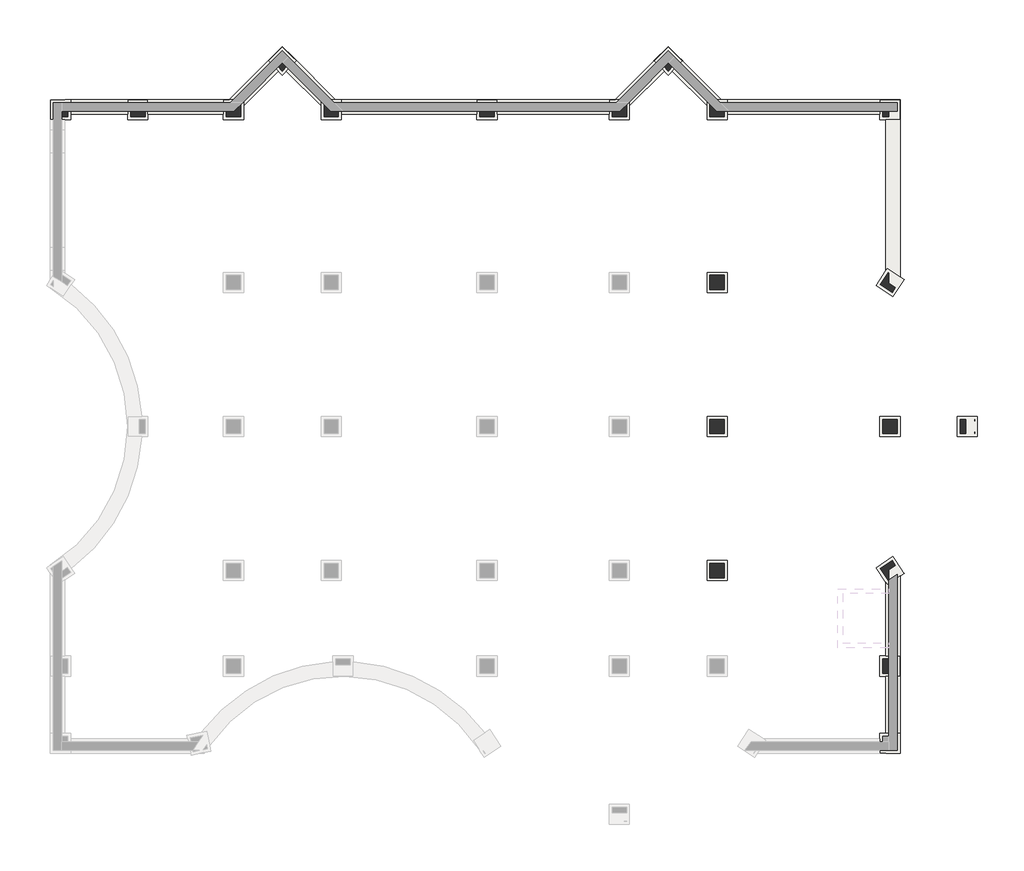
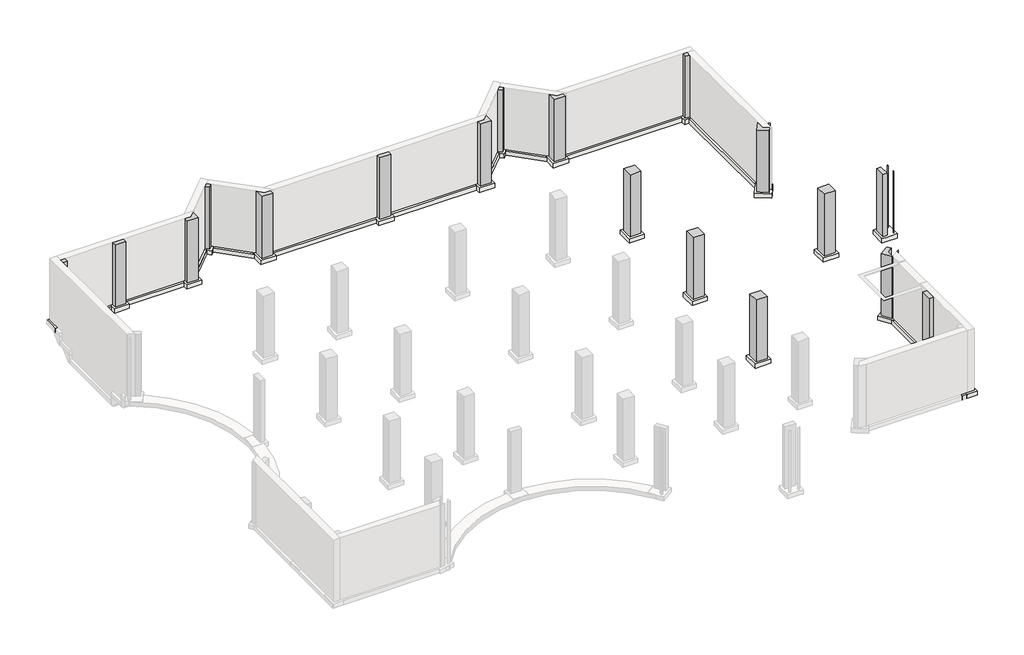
# One storey, part 3 of 3: 19 slabs, 18 columns, 9 footings.
"""IFC4 building model written with IfcOpenShell, lengths in millimetres."""

import ifcopenshell
import ifcopenshell.guid

model = None  # the IFC model being written
_history = None  # IfcOwnerHistory: only IFC2X3 demands one
_inside = {}  # id of a spatial element -> (the spatial element, [elements in it])
_under = {}  # id of a project, library or spatial element -> (it, [spatial elements below it])
_declared = {}  # id of a project -> (the project, [libraries it declares])
_typed = {}  # id of a type object -> (the type object, [elements of that type])
_made_of = {}  # id of a material, layer set ... -> (it, [elements and type objects made of it])


def new_model(schema):
    """Start an empty IFC model of exactly this schema.

    Asked for "IFC4X3", IfcOpenShell would pick the latest addendum, in which some entities
    have other attributes; the version numbers below select the first issue.
    IFC2X3 requires an IfcOwnerHistory on every rooted entity: one is made here for all.
    """
    global model, _history
    if schema == "IFC4X3":
        model = ifcopenshell.file(schema_version=(4, 3, 0, 0))
    else:
        model = ifcopenshell.file(schema=schema)
    _inside.clear()
    _under.clear()
    _declared.clear()
    _typed.clear()
    _made_of.clear()
    _history = None
    if model.schema == "IFC2X3":
        org = make("IfcOrganization", Name="unknown")
        user = make(
            "IfcPersonAndOrganization",
            ThePerson=make("IfcPerson", FamilyName="unknown"),
            TheOrganization=org,
        )
        app = make(
            "IfcApplication",
            ApplicationDeveloper=org,
            Version="unknown",
            ApplicationFullName="unknown",
            ApplicationIdentifier="unknown",
        )
        _history = make(
            "IfcOwnerHistory",
            OwningUser=user,
            OwningApplication=app,
            ChangeAction="ADDED",
            CreationDate=0,
        )
    return model


def make(cls, **values):
    """One entity of the class cls with the attributes given. An attribute that is None is left unset."""
    return model.create_entity(
        cls, **{name: value for name, value in values.items() if value is not None}
    )


def rooted(cls, **values):
    """An entity with a GlobalId (a new one), such as an element, a storey or a relation."""
    return make(cls, GlobalId=ifcopenshell.guid.new(), OwnerHistory=_history, **values)


def si_unit(unit_type, name, prefix=None):
    """IfcSIUnit, for example si_unit("LENGTHUNIT", "METRE", prefix="MILLI")."""
    return make("IfcSIUnit", UnitType=unit_type, Prefix=prefix, Name=name)


def assignment(units):
    """IfcUnitAssignment: the units of a project."""
    return None if units is None else make("IfcUnitAssignment", Units=units)


def point(xyz):
    """IfcCartesianPoint."""
    return None if xyz is None else make("IfcCartesianPoint", Coordinates=xyz)


def direction(xyz):
    """IfcDirection."""
    return None if xyz is None else make("IfcDirection", DirectionRatios=xyz)


def frame(location, z_axis=None, x_axis=None):
    """IfcAxis2Placement3D, a coordinate frame: its origin and axes. An axis left out is left unset."""
    return make(
        "IfcAxis2Placement3D",
        Location=point(location),
        Axis=direction(z_axis),
        RefDirection=direction(x_axis),
    )


def frame_2d(location, x_axis=None):
    """IfcAxis2Placement2D, a coordinate frame in the plane: its origin and x axis."""
    return make(
        "IfcAxis2Placement2D", Location=point(location), RefDirection=direction(x_axis)
    )


def origin():
    """The frame at (0, 0, 0) with its axes left unset."""
    return frame((0.0, 0.0, 0.0))


def place(relative_to, where):
    """IfcLocalPlacement: puts the frame where relative to a parent placement (None: the world)."""
    return make(
        "IfcLocalPlacement", PlacementRelTo=relative_to, RelativePlacement=where
    )


def context(
    kind, dimensions, precision=None, world=None, true_north=None, identifier=None
):
    """IfcGeometricRepresentationContext, for example the 3D "Model" context."""
    return make(
        "IfcGeometricRepresentationContext",
        ContextIdentifier=identifier,
        ContextType=kind,
        CoordinateSpaceDimension=dimensions,
        Precision=precision,
        WorldCoordinateSystem=world,
        TrueNorth=true_north,
    )


def project(units=None, contexts=None):
    """IfcProject with its units and contexts."""
    return rooted(
        "IfcProject",
        Name="project",
        RepresentationContexts=contexts,
        UnitsInContext=assignment(units),
    )


def spatial(cls, under=None, at=None, **own):
    """A site, building, storey or space (cls), placed at a placement, below another one or the project."""
    s = rooted(cls, ObjectPlacement=at, **own)
    if under is not None:
        _under.setdefault(under.id(), (under, []))[1].append(s)
    return s


def polyline(points):
    """IfcPolyline through the points."""
    return make("IfcPolyline", Points=[point(p) for p in points])


def circle_curve(where, radius):
    """IfcCircle in the frame where."""
    return make("IfcCircle", Position=where, Radius=radius)


def trimmed(basis, trim1, trim2, sense, master):
    """IfcTrimmedCurve: the piece of a basis curve between two trims."""
    return make(
        "IfcTrimmedCurve",
        BasisCurve=basis,
        Trim1=trim1,
        Trim2=trim2,
        SenseAgreement=sense,
        MasterRepresentation=master,
    )


def segment(curve, same_sense, transition):
    """IfcCompositeCurveSegment."""
    return make(
        "IfcCompositeCurveSegment",
        Transition=transition,
        SameSense=same_sense,
        ParentCurve=curve,
    )


def composite_curve(segments, self_intersect=None):
    """IfcCompositeCurve: segments joined end to end."""
    return make("IfcCompositeCurve", Segments=segments, SelfIntersect=self_intersect)


def outline(outer, holes=None, kind="AREA"):
    """IfcArbitraryClosedProfileDef: a profile drawn as a closed curve; with holes, ...WithVoids."""
    if holes is None:
        return make("IfcArbitraryClosedProfileDef", ProfileType=kind, OuterCurve=outer)
    return make(
        "IfcArbitraryProfileDefWithVoids",
        ProfileType=kind,
        OuterCurve=outer,
        InnerCurves=holes,
    )


def extrude(swept, where, along, depth):
    """IfcExtrudedAreaSolid: the profile swept, set in the frame where, extruded along a direction by depth."""
    return make(
        "IfcExtrudedAreaSolid",
        SweptArea=swept,
        Position=where,
        ExtrudedDirection=direction(along),
        Depth=depth,
    )


def faces_of(points, faces, orient=None, outer=None):
    """IfcFace entities. A face is a list of loops; a loop is a list of indices into points, from 0.

    orient and outer hold one flag for each loop. By default every Orientation is true, the
    first loop of a face is its IfcFaceOuterBound and the others are IfcFaceBound.
    """
    made = []
    for i, loops in enumerate(faces):
        bounds = []
        for j, loop in enumerate(loops):
            is_outer = j == 0 if outer is None else outer[i][j]
            bounds.append(
                make(
                    "IfcFaceOuterBound" if is_outer else "IfcFaceBound",
                    Bound=make("IfcPolyLoop", Polygon=[points[k] for k in loop]),
                    Orientation=True if orient is None else orient[i][j],
                )
            )
        made.append(make("IfcFace", Bounds=bounds))
    return made


def faceted_brep(points, faces, orient=None, outer=None, voids=None):
    """IfcFacetedBrep: a solid bounded by flat faces; with voids (closed shells), ...WithVoids."""
    shared = [point(p) for p in points]
    hull = make("IfcClosedShell", CfsFaces=faces_of(shared, faces, orient, outer))
    if voids is None:
        return make("IfcFacetedBrep", Outer=hull)
    return make(
        "IfcFacetedBrepWithVoids",
        Outer=hull,
        Voids=[
            make(cls, CfsFaces=faces_of(shared, fs, o, b)) for cls, fs, o, b in voids
        ],
    )


def shape(context_of_items, identifier, shape_type, items):
    """IfcShapeRepresentation: the items that make up one representation, for example the "Body"."""
    return make(
        "IfcShapeRepresentation",
        ContextOfItems=context_of_items,
        RepresentationIdentifier=identifier,
        RepresentationType=shape_type,
        Items=items,
    )


def source(mapping_origin, context_of_items, identifier, shape_type, items):
    """IfcRepresentationMap: a shape defined once, which mapped items show again and again."""
    return make(
        "IfcRepresentationMap",
        MappingOrigin=mapping_origin,
        MappedRepresentation=shape(context_of_items, identifier, shape_type, items),
    )


def transform(
    local_origin,
    x_axis=None,
    y_axis=None,
    z_axis=None,
    scale=None,
    scale2=None,
    scale3=None,
    uniform=True,
):
    """IfcCartesianTransformationOperator3D, or its non-uniform kind. x_axis, y_axis, z_axis: its Axis1, 2, 3."""
    if uniform:
        return make(
            "IfcCartesianTransformationOperator3D",
            Axis1=direction(x_axis),
            Axis2=direction(y_axis),
            LocalOrigin=point(local_origin),
            Scale=scale,
            Axis3=direction(z_axis),
        )
    return make(
        "IfcCartesianTransformationOperator3DnonUniform",
        Axis1=direction(x_axis),
        Axis2=direction(y_axis),
        LocalOrigin=point(local_origin),
        Scale=scale,
        Axis3=direction(z_axis),
        Scale2=scale2,
        Scale3=scale3,
    )


def mapped(mapping_source, mapping_target):
    """IfcMappedItem: shows the shape of a source again, moved by a transform."""
    return make(
        "IfcMappedItem", MappingSource=mapping_source, MappingTarget=mapping_target
    )


def made_of(thing, what):
    """Note that an element or type object is made of a material, layer set ...; save() writes the relation."""
    if what is not None:
        _made_of.setdefault(what.id(), (what, []))[1].append(thing)
    return thing


def element(
    cls,
    number,
    at=None,
    inside=None,
    cuts=None,
    type_object=None,
    material=None,
    context=None,
    identifier="Body",
    shape_type=None,
    held_by="IfcProductDefinitionShape",
    body=None,
    shapes=None,
    **own,
):
    """One element of the class cls, such as IfcWall. Its Tag is "e" and its number.

    at: its placement. inside: the storey or other place that contains it. cuts: it is an
    opening in that element (IfcRelVoidsElement). A single representation is given by context,
    identifier, shape_type and body (its items); several are given by shapes. held_by: the class
    of the entity that holds the representations. save() writes the other relations.
    """
    e = rooted(cls, Tag="e%d" % number, ObjectPlacement=at, **own)
    if body is not None:
        shapes = [shape(context, identifier, shape_type, body)]
    if shapes is not None:
        e.Representation = make(held_by, Representations=shapes)
    if inside is not None:
        _inside.setdefault(inside.id(), (inside, []))[1].append(e)
    if cuts is not None:
        rooted(
            "IfcRelVoidsElement", RelatingBuildingElement=cuts, RelatedOpeningElement=e
        )
    if type_object is not None:
        _typed.setdefault(type_object.id(), (type_object, []))[1].append(e)
    return made_of(e, material)


def aggregate(whole, parts):
    """IfcRelAggregates: a whole, such as a stair, and the parts it consists of."""
    return rooted("IfcRelAggregates", RelatingObject=whole, RelatedObjects=parts)


def save(model, path):
    """Write the relations noted so far, then the file.

    IfcRelAggregates (storeys below a building ...), IfcRelContainedInSpatialStructure (elements
    in a storey), IfcRelDefinesByType, IfcRelAssociatesMaterial and IfcRelDeclares: one each for
    every whole, place, type object, material and project.
    """
    for whole, parts in _under.values():
        aggregate(whole, parts)
    for where, things in _inside.values():
        rooted(
            "IfcRelContainedInSpatialStructure",
            RelatedElements=things,
            RelatingStructure=where,
        )
    for kind, things in _typed.values():
        rooted("IfcRelDefinesByType", RelatedObjects=things, RelatingType=kind)
    for what, things in _made_of.values():
        rooted("IfcRelAssociatesMaterial", RelatedObjects=things, RelatingMaterial=what)
    for by, libraries in _declared.values():
        rooted("IfcRelDeclares", RelatingContext=by, RelatedDefinitions=libraries)
    model.write(path)


def plane_surface(at):
    """IfcPlane: the flat surface through the origin of the frame at, square to its z axis."""
    return make("IfcPlane", Position=at)


def cylinder_surface(at, radius):
    """IfcCylindricalSurface: all points at the distance radius from the z axis of the frame at."""
    return make("IfcCylindricalSurface", Position=at, Radius=radius)


def revolved_surface(curve, axis_point, axis_direction):
    """IfcSurfaceOfRevolution: the curve turned about the line through axis_point along axis_direction."""
    return make(
        "IfcSurfaceOfRevolution",
        SweptCurve=make("IfcArbitraryOpenProfileDef", ProfileType="CURVE", Curve=curve),
        AxisPosition=make("IfcAxis1Placement", Location=point(axis_point), Axis=direction(axis_direction)),
    )


def advanced_brep(points, edges, surfaces, faces):
    """IfcAdvancedBrep: a solid bounded by faces that lie on surfaces and meet in shared edges.

    An edge is (start, end): straight between two places in points (the first is 0);
    or (start, end, curve); or (start, end, curve, False) where it runs against its curve.
    A face is (place in surfaces, loops), or (place, loops, False) where it looks against
    its surface's normal. A loop lists edges by number (the first is 1), with a minus sign
    where the edge is run from its end to its start. The first loop is the outer one.
    """
    corners = [point(p) for p in points]
    vertices = [make("IfcVertexPoint", VertexGeometry=c) for c in corners]
    made = []
    for start, end, *more in edges:
        made.append(
            make(
                "IfcEdgeCurve",
                EdgeStart=vertices[start],
                EdgeEnd=vertices[end],
                EdgeGeometry=more[0] if more else make("IfcPolyline", Points=[corners[start], corners[end]]),
                SameSense=more[1] if len(more) > 1 else True,
            )
        )
    hull = []
    for where, loops, *sense in faces:
        bounds = []
        for j, loop in enumerate(loops):
            ring = [make("IfcOrientedEdge", EdgeElement=made[abs(k) - 1], Orientation=k > 0) for k in loop]
            bounds.append(
                make(
                    "IfcFaceOuterBound" if j == 0 else "IfcFaceBound",
                    Bound=make("IfcEdgeLoop", EdgeList=ring),
                    Orientation=True,
                )
            )
        hull.append(make("IfcAdvancedFace", Bounds=bounds, FaceSurface=surfaces[where], SameSense=sense[0] if sense else True))
    return make("IfcAdvancedBrep", Outer=make("IfcClosedShell", CfsFaces=hull))


def m_concrete_rectangular_column_762_x_762mm_e00174ba(model_context):
    return source(origin(), model_context, "Body", "SweptSolid", [
        extrude(outline(polyline([(381.0, 381.0), (381.0, -381.0), (-381.0, -381.0), (-381.0, 381.0), (381.0, 381.0)])), frame((0.0, 0.0, -4572.0), z_axis=(0.0, 0.0, 1.0), x_axis=(1.0, 0.0, 0.0)), (0.0, 0.0, 1.0), 4572.0),
    ])


def m_footing_rectangular_1067_x_1067_x_305mm_e91fa160(model_context):
    return source(origin(), model_context, "Body", "SweptSolid", [
        extrude(outline(polyline([(533.5, 533.5), (533.5, -533.5), (-533.5, -533.5), (-533.5, 533.5), (533.5, 533.5)])), frame((0.0, 0.0, -305.0), z_axis=(0.0, 0.0, 1.0), x_axis=(1.0, 0.0, 0.0)), (0.0, 0.0, 1.0), 305.0),
    ])


model = new_model("IFC4")

# Units and contexts
model_context = context("Model", 3, world=origin())
ifc_project = project(units=[si_unit("LENGTHUNIT", "METRE", prefix="MILLI")], contexts=[model_context])

# Site, building, storey
site = spatial("IfcSite", under=ifc_project)
building = spatial("IfcBuilding", under=site)
storey = spatial("IfcBuildingStorey", under=building, Name="00 T.O.FOOTING", Elevation=-4572.0)

# Columns
placement = place(None, origin())
element("IfcColumn", 1, ObjectType="M_Concrete-Rectangular-Column : 762 x 762mm", at=placement, inside=storey, context=model_context, shape_type="SweptSolid", body=[
    extrude(outline(polyline([(536.575, 33302.575), (228.5, 33302.575), (228.5, 33610.65), (536.575, 33610.65), (536.575, 33302.575)])), frame((0.0, 0.0, -4572.0), z_axis=(0.0, 0.0, 1.0), x_axis=(1.0, 0.0, 0.0)), (0.0, 0.0, 1.0), 4572.0),
])
element("IfcColumn", 2, ObjectType="M_Concrete-Rectangular-Column : 762 x 762mm", at=placement, inside=storey, context=model_context, shape_type="SweptSolid", body=[
    extrude(outline(polyline([(4625.575, 33302.575), (3863.575, 33302.575), (3863.575, 33610.65), (4625.575, 33610.65), (4625.575, 33302.575)])), frame((0.0, 0.0, -4572.0), z_axis=(0.0, 0.0, 1.0), x_axis=(1.0, 0.0, 0.0)), (0.0, 0.0, 1.0), 4572.0),
])
element("IfcColumn", 3, ObjectType="M_Concrete-Rectangular-Column : 762 x 762mm", at=placement, inside=storey, context=model_context, shape_type="SweptSolid", body=[
    extrude(outline(polyline([(9680.575, 33302.575), (8918.575, 33302.575), (8918.575, 33610.65), (9329.781524, 33610.65), (9680.575, 33961.443476), (9680.575, 33302.575)])), frame((0.0, 0.0, -4572.0), z_axis=(0.0, 0.0, 1.0), x_axis=(1.0, 0.0, 0.0)), (0.0, 0.0, 1.0), 4572.0),
])
element("IfcColumn", 4, ObjectType="M_Concrete-Rectangular-Column : 762 x 762mm", at=placement, inside=storey, context=model_context, shape_type="SweptSolid", body=[
    extrude(outline(polyline([(11885.575, 35730.7596327), (11667.7330784, 35948.6015543), (11885.8887629, 36166.7572388), (12103.7306845, 35948.9153172), (11885.575, 35730.7596327)])), frame((0.0, 0.0, -4572.0), z_axis=(0.0, 0.0, 1.0), x_axis=(1.0, 0.0, 0.0)), (0.0, 0.0, 1.0), 4572.0),
])
element("IfcColumn", 5, ObjectType="M_Concrete-Rectangular-Column : 762 x 762mm", at=placement, inside=storey, context=model_context, shape_type="SweptSolid", body=[
    extrude(outline(polyline([(14852.575, 33302.575), (14090.575, 33302.575), (14090.575, 33962.0710017), (14441.9960017, 33610.65), (14852.575, 33610.65), (14852.575, 33302.575)])), frame((0.0, 0.0, -4572.0), z_axis=(0.0, 0.0, 1.0), x_axis=(1.0, 0.0, 0.0)), (0.0, 0.0, 1.0), 4572.0),
])
element("IfcColumn", 6, ObjectType="M_Concrete-Rectangular-Column : 762 x 762mm", at=placement, inside=storey, context=model_context, shape_type="SweptSolid", body=[
    extrude(outline(polyline([(23091.575, 33302.575), (22329.575, 33302.575), (22329.575, 33610.65), (23091.575, 33610.65), (23091.575, 33302.575)])), frame((0.0, 0.0, -4572.0), z_axis=(0.0, 0.0, 1.0), x_axis=(1.0, 0.0, 0.0)), (0.0, 0.0, 1.0), 4572.0),
])
element("IfcColumn", 7, ObjectType="M_Concrete-Rectangular-Column : 762 x 762mm", at=placement, inside=storey, context=model_context, shape_type="SweptSolid", body=[
    extrude(outline(polyline([(30092.575, 33302.575), (29330.575, 33302.575), (29330.575, 33610.65), (29742.4090498, 33610.65), (30092.575, 33960.8159502), (30092.575, 33302.575)])), frame((0.0, 0.0, -4572.0), z_axis=(0.0, 0.0, 1.0), x_axis=(1.0, 0.0, 0.0)), (0.0, 0.0, 1.0), 4572.0),
])
element("IfcColumn", 8, ObjectType="M_Concrete-Rectangular-Column : 762 x 762mm", at=placement, inside=storey, context=model_context, shape_type="SweptSolid", body=[
    extrude(outline(polyline([(32297.575, 35730.7596327), (32080.0468413, 35948.2877915), (32298.5162886, 36166.7572388), (32516.0444474, 35949.2290801), (32297.575, 35730.7596327)])), frame((0.0, 0.0, -4572.0), z_axis=(0.0, 0.0, 1.0), x_axis=(1.0, 0.0, 0.0)), (0.0, 0.0, 1.0), 4572.0),
])
element("IfcColumn", 9, ObjectType="M_Concrete-Rectangular-Column : 762 x 762mm", at=placement, inside=storey, context=model_context, shape_type="SweptSolid", body=[
    extrude(outline(polyline([(35264.575, 33302.575), (34502.575, 33302.575), (34502.575, 33962.6985274), (34854.6235274, 33610.65), (35264.575, 33610.65), (35264.575, 33302.575)])), frame((0.0, 0.0, -4572.0), z_axis=(0.0, 0.0, 1.0), x_axis=(1.0, 0.0, 0.0)), (0.0, 0.0, 1.0), 4572.0),
])
element("IfcColumn", 10, ObjectType="M_Concrete-Rectangular-Column : 762 x 762mm", at=placement, inside=storey, context=model_context, shape_type="SweptSolid", body=[
    extrude(outline(polyline([(43646.575, 33302.575), (43646.575, 33610.65), (43955.9050515, 33610.65), (43955.9050515, 33302.575), (43646.575, 33302.575)])), frame((0.0, 0.0, -4572.0), z_axis=(0.0, 0.0, 1.0), x_axis=(1.0, 0.0, 0.0)), (0.0, 0.0, 1.0), 4572.0),
])
element("IfcColumn", 11, ObjectType="M_Concrete-Rectangular-Column : 762 x 762mm", at=placement, inside=storey, context=model_context, shape_type="SweptSolid", body=[
    extrude(outline(composite_curve([segment(polyline([(44461.4614075, 24709.0040954), (44555.6684434, 24646.5297336), (44553.539597, 24643.3195798)]), True, "CONTINUOUS"), segment(trimmed(circle_curve(frame_2d((38974.293871, 16919.575)), 9528.075), [point((44553.539597, 24643.3195798))], [point((44461.4614075, 24709.0040954))], True, "CARTESIAN"), True, "CONTINUOUS")], self_intersect=False)), frame((0.0, 0.0, -4572.0), z_axis=(0.0, 0.0, 1.0), x_axis=(1.0, 0.0, 0.0)), (0.0, 0.0, 1.0), 4572.0),
    extrude(outline(composite_curve([segment(polyline([(44134.5297336, 24011.4815566), (43499.4815566, 24432.6202664), (43920.6202664, 25067.6684434), (43955.9050515, 25044.2689764), (43955.9050515, 24500.3369473)]), True, "CONTINUOUS"), segment(trimmed(circle_curve(frame_2d((38974.293871, 16919.575)), 9071.075), [point((43955.9050515, 24500.3369473))], [point((44300.7545376, 24262.1371157))], False, "CARTESIAN"), True, "CONTINUOUS"), segment(polyline([(44300.7545376, 24262.1371157), (44134.5297336, 24011.4815566)]), True, "CONTINUOUS")], self_intersect=False)), frame((0.0, 0.0, -4572.0), z_axis=(0.0, 0.0, 1.0), x_axis=(1.0, 0.0, 0.0)), (0.0, 0.0, 1.0), 4572.0),
])
element("IfcColumn", 12, ObjectType="M_Concrete-Rectangular-Column : 762 x 762mm", at=placement, inside=storey, context=model_context, shape_type="SweptSolid", body=[
    extrude(outline(composite_curve([segment(polyline([(48497.575, 16617.3668878), (48497.575, 16538.575), (48494.7482827, 16538.575)]), True, "CONTINUOUS"), segment(trimmed(circle_curve(frame_2d((38974.293871, 16919.575)), 9528.075), [point((48494.7482827, 16538.575))], [point((48497.575, 16617.3668878))], True, "CARTESIAN"), True, "CONTINUOUS")], self_intersect=False)), frame((0.0, 0.0, -4572.0), z_axis=(0.0, 0.0, 1.0), x_axis=(1.0, 0.0, 0.0)), (0.0, 0.0, 1.0), 4572.0),
    extrude(outline(composite_curve([segment(polyline([(47735.575, 16538.575), (47735.575, 17300.575), (48037.3640271, 17300.575)]), True, "CONTINUOUS"), segment(trimmed(circle_curve(frame_2d((38974.293871, 16919.575)), 9071.075), [point((48037.3640271, 17300.575))], [point((48037.3640271, 16538.575))], False, "CARTESIAN"), True, "CONTINUOUS"), segment(polyline([(48037.3640271, 16538.575), (47735.575, 16538.575)]), True, "CONTINUOUS")], self_intersect=False)), frame((0.0, 0.0, -4572.0), z_axis=(0.0, 0.0, 1.0), x_axis=(1.0, 0.0, 0.0)), (0.0, 0.0, 1.0), 4572.0),
    extrude(outline(composite_curve([segment(polyline([(48494.7482827, 17300.575), (48497.575, 17300.575), (48497.575, 17221.7831122)]), True, "CONTINUOUS"), segment(trimmed(circle_curve(frame_2d((38974.293871, 16919.575)), 9528.075), [point((48497.575, 17221.7831122))], [point((48494.7482827, 17300.575))], True, "CARTESIAN"), True, "CONTINUOUS")], self_intersect=False)), frame((0.0, 0.0, -4572.0), z_axis=(0.0, 0.0, 1.0), x_axis=(1.0, 0.0, 0.0)), (0.0, 0.0, 1.0), 4572.0),
])
element("IfcColumn", 13, ObjectType="M_Concrete-Rectangular-Column : 762 x 762mm", at=placement, inside=storey, context=model_context, shape_type="AdvancedBrep", body=[
    advanced_brep(
    [(44553.539597, 9195.8304202, -4572.0), (44555.6684434, 9192.6202664, -4572.0), (44461.4614075, 9130.1459046, -4572.0), (44555.6684434, 9192.6202664, 0.0), (44553.539597, 9195.8304202, 0.0), (44461.4614075, 9130.1459046, 0.0)],
    [
        (0, 1),
        (1, 2),
        (2, 0, circle_curve(frame((38974.293871, 16919.575, -4572.0), z_axis=(0.0, 0.0, 1.0), x_axis=(1.0, 0.0, 0.0)), 9528.075)),
        (3, 1),
        (0, 4),
        (4, 3),
        (3, 5),
        (5, 2),
        (4, 5, circle_curve(frame((38974.293871, 16919.575, 0.0), z_axis=(0.0, 0.0, -1.0), x_axis=(1.0, 0.0, 0.0)), 9528.075)),
    ],
    [
        plane_surface(frame((43920.6202664, 8771.4815566, -4572.0), z_axis=(0.0, 0.0, -1.0000000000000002), x_axis=(-0.552675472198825, 0.8333965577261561, 0.0))),
        plane_surface(frame((44555.6684434, 9192.6202664, 0.0), z_axis=(0.8333965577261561, 0.552675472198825, 0.0), x_axis=(0.0, 0.0, -1.0))),
        plane_surface(frame((43920.6202664, 8771.4815566, 0.0), z_axis=(0.552675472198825, -0.8333965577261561, 0.0), x_axis=(0.0, 0.0, -1.0))),
        plane_surface(frame((43920.6202664, 8771.4815566, 0.0), z_axis=(0.0, 0.0, 1.0000000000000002), x_axis=(0.552675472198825, -0.8333965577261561, 0.0))),
        revolved_surface(polyline([(48502.368871, 16919.575, 0.0), (48502.368871, 16919.575, -4572.0)]), (38974.293871, 16919.575, -4572.0), (0.0, 0.0, 1.0)),
    ],
    [
        (0, [[1, 2, 3]]),
        (1, [[4, -1, 5, 6]]),
        (2, [[-4, 7, 8, -2]]),
        (3, [[-7, -6, 9]]),
        (4, [[-3, -8, -9, -5]]),
    ],
),
    advanced_brep(
    [(44134.5297336, 9827.6684434, -4572.0), (43499.4815566, 9406.5297336, -4572.0), (43499.4815566, 9406.5297336, 0.0), (44134.5297336, 9827.6684434, 0.0), (43920.6202664, 8771.4815566, 0.0), (43920.6202664, 8771.4815566, -4572.0), (43955.9050515, 8794.8810236, -4572.0), (43955.9050515, 8794.8810236, 0.0), (43955.9050515, 8797.5208724, 0.0), (43955.9050515, 9338.8130527, 0.0), (44300.7545376, 9577.0128843, 0.0), (43955.9050515, 9338.8130527, -4572.0), (44300.7545376, 9577.0128843, -4572.0), (43955.9050515, 8797.5208724, -4572.0)],
    [
        (0, 1),
        (1, 2),
        (2, 3),
        (3, 0),
        (4, 5),
        (5, 6),
        (6, 7),
        (7, 4),
        (1, 5),
        (4, 2),
        (7, 8),
        (8, 9),
        (9, 10, circle_curve(frame((38974.293871, 16919.575, 0.0), z_axis=(0.0, 0.0, 1.0), x_axis=(1.0, 0.0, 0.0)), 9071.075)),
        (10, 3),
        (9, 11),
        (11, 12, circle_curve(frame((38974.293871, 16919.575, -4572.0), z_axis=(0.0, 0.0, 1.0), x_axis=(1.0, 0.0, 0.0)), 9071.075)),
        (12, 10),
        (6, 13),
        (13, 11),
        (0, 12),
    ],
    [
        plane_surface(frame((44134.5297336, 9827.6684434, 0.0), z_axis=(-0.552675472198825, 0.8333965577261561, 0.0), x_axis=(0.0, 0.0, -1.0))),
        plane_surface(frame((43920.6202664, 8771.4815566, 0.0), z_axis=(0.552675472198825, -0.8333965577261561, 0.0), x_axis=(0.0, 0.0, -1.0))),
        plane_surface(frame((43499.4815566, 9406.5297336, 0.0), z_axis=(-0.8333965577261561, -0.552675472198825, 0.0), x_axis=(0.0, 0.0, -1.0))),
        plane_surface(frame((43920.6202664, 8771.4815566, 0.0), z_axis=(0.0, 0.0, 1.0000000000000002), x_axis=(0.552675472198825, -0.8333965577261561, 0.0))),
        cylinder_surface(frame((38974.293871, 16919.575, -4572.0), z_axis=(0.0, 0.0, -1.0), x_axis=(1.0, 0.0, 0.0)), 9071.075),
        plane_surface(frame((43955.9050515, 9216.5342584, -4572.0), z_axis=(1.0, 0.0, 0.0), x_axis=(0.0, -1.0, 0.0))),
        plane_surface(frame((43920.6202664, 8771.4815566, -4572.0), z_axis=(0.0, 0.0, -1.0000000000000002), x_axis=(-0.552675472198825, 0.8333965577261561, 0.0))),
        plane_surface(frame((44555.6684434, 9192.6202664, 0.0), z_axis=(0.8333965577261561, 0.552675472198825, 0.0), x_axis=(0.0, 0.0, -1.0))),
    ],
    [
        (0, [[1, 2, 3, 4]]),
        (1, [[5, 6, 7, 8]]),
        (2, [[9, -5, 10, -2]]),
        (3, [[-3, -10, -8, 11, 12, 13, 14]]),
        (4, [[15, 16, 17, -13]]),
        (5, [[-15, -12, -11, -7, 18, 19]]),
        (6, [[-1, 20, -16, -19, -18, -6, -9]]),
        (7, [[-4, -14, -17, -20]]),
    ],
),
])
element("IfcColumn", 14, ObjectType="M_Concrete-Rectangular-Column : 762 x 762mm", at=placement, inside=storey, context=model_context, shape_type="SweptSolid", body=[
    extrude(outline(polyline([(43646.575, 3863.575), (43646.575, 4625.575), (43955.9050515, 4625.575), (43955.9050515, 3863.575), (43646.575, 3863.575)])), frame((0.0, 0.0, -4572.0), z_axis=(0.0, 0.0, 1.0), x_axis=(1.0, 0.0, 0.0)), (0.0, 0.0, 1.0), 4572.0),
])
m_concrete_rectangular_column_762_x_762mm_shape = m_concrete_rectangular_column_762_x_762mm_e00174ba(model_context)
element("IfcColumn", 15, ObjectType="M_Concrete-Rectangular-Column : 762 x 762mm", at=placement, inside=storey, context=model_context, shape_type="MappedRepresentation", body=[
    mapped(m_concrete_rectangular_column_762_x_762mm_shape, transform((34883.575, 24539.575, 0.0), x_axis=(1.0, 0.0, 0.0), y_axis=(0.0, 1.0, 0.0), z_axis=(0.0, 0.0, 1.0))),
])
element("IfcColumn", 16, ObjectType="M_Concrete-Rectangular-Column : 762 x 762mm", at=placement, inside=storey, context=model_context, shape_type="MappedRepresentation", body=[
    mapped(m_concrete_rectangular_column_762_x_762mm_shape, transform((34883.575, 16919.575, 0.0), x_axis=(1.0, 0.0, 0.0), y_axis=(0.0, 1.0, 0.0), z_axis=(0.0, 0.0, 1.0))),
])
element("IfcColumn", 17, ObjectType="M_Concrete-Rectangular-Column : 762 x 762mm", at=placement, inside=storey, context=model_context, shape_type="MappedRepresentation", body=[
    mapped(m_concrete_rectangular_column_762_x_762mm_shape, transform((34883.575, 9299.575, 0.0), x_axis=(1.0, 0.0, 0.0), y_axis=(0.0, 1.0, 0.0), z_axis=(0.0, 0.0, 1.0))),
])
element("IfcColumn", 18, ObjectType="M_Concrete-Rectangular-Column : 762 x 762mm", at=placement, inside=storey, context=model_context, shape_type="MappedRepresentation", body=[
    mapped(m_concrete_rectangular_column_762_x_762mm_shape, transform((44027.575, 16919.575, 0.0), x_axis=(1.0, 0.0, 0.0), y_axis=(0.0, 1.0, 0.0), z_axis=(0.0, 0.0, 1.0))),
])

# Footings
element("IfcFooting", 19, ObjectType="Bearing Footing - 762 x 305", at=placement, inside=storey, context=model_context, shape_type="SweptSolid", body=[
    extrude(outline(polyline([(381.0, 34220.15), (9077.3183578, 34220.15), (9078.5920645, 34217.075), (8766.075, 34217.075), (8766.075, 33458.15), (4778.075, 33458.15), (4778.075, 34217.075), (3711.075, 34217.075), (3711.075, 33458.15), (689.075, 33458.15), (689.075, 34217.075), (381.0, 34217.075), (381.0, 34220.15)])), frame((0.0, 0.0, -4877.0), z_axis=(0.0, 0.0, 1.0), x_axis=(1.0, 0.0, 0.0)), (0.0, 0.0, 1.0), 305.0),
])
element("IfcFooting", 20, ObjectType="Bearing Footing - 762 x 305", at=placement, inside=storey, context=model_context, shape_type="SweptSolid", body=[
    extrude(outline(polyline([(11885.8887629, 37028.7204051), (12424.7041301, 36489.9050378), (12422.2160139, 36487.4169216), (11885.575, 37024.0579355), (11131.0920645, 36269.575), (11667.7330784, 35732.9339861), (9833.075, 33898.2759077), (9833.075, 34217.075), (9078.5920645, 34217.075), (9077.3183578, 34220.15), (11885.8887629, 37028.7204051)])), frame((0.0, 0.0, -4877.0), z_axis=(0.0, 0.0, 1.0), x_axis=(1.0, 0.0, 0.0)), (0.0, 0.0, 1.0), 305.0),
])
element("IfcFooting", 21, ObjectType="Bearing Footing - 762 x 305", at=placement, inside=storey, context=model_context, shape_type="SweptSolid", body=[
    extrude(outline(polyline([(12424.7041301, 36489.9050378), (14694.459168, 34220.15), (14693.1854613, 34217.075), (13938.075, 34217.075), (13938.075, 33898.9034334), (12103.7306845, 35733.247749), (12640.0579355, 36269.575), (12422.2160139, 36487.4169216), (12424.7041301, 36489.9050378)])), frame((0.0, 0.0, -4877.0), z_axis=(0.0, 0.0, 1.0), x_axis=(1.0, 0.0, 0.0)), (0.0, 0.0, 1.0), 305.0),
])
element("IfcFooting", 22, ObjectType="Bearing Footing - 762 x 305", at=placement, inside=storey, context=model_context, shape_type="SweptSolid", body=[
    extrude(outline(polyline([(14694.459168, 34220.15), (29489.9458835, 34220.15), (29491.2195902, 34217.075), (29178.075, 34217.075), (29178.075, 33458.15), (23244.075, 33458.15), (23244.075, 34217.075), (22177.075, 34217.075), (22177.075, 33458.15), (15005.075, 33458.15), (15005.075, 34217.075), (14693.1854613, 34217.075), (14694.459168, 34220.15)])), frame((0.0, 0.0, -4877.0), z_axis=(0.0, 0.0, 1.0), x_axis=(1.0, 0.0, 0.0)), (0.0, 0.0, 1.0), 305.0),
])
element("IfcFooting", 23, ObjectType="Bearing Footing - 762 x 305", at=placement, inside=storey, context=model_context, shape_type="SweptSolid", body=[
    extrude(outline(polyline([(32298.5162886, 37028.7204051), (32837.3316559, 36489.9050378), (32834.5297768, 36487.1031587), (32297.575, 37024.0579355), (31543.0920645, 36269.575), (32080.0468413, 35732.6202232), (30245.075, 33897.648382), (30245.075, 34217.075), (29491.2195902, 34217.075), (29489.9458835, 34220.15), (32298.5162886, 37028.7204051)])), frame((0.0, 0.0, -4877.0), z_axis=(0.0, 0.0, 1.0), x_axis=(1.0, 0.0, 0.0)), (0.0, 0.0, 1.0), 305.0),
])
element("IfcFooting", 24, ObjectType="Bearing Footing - 762 x 305", at=placement, inside=storey, context=model_context, shape_type="SweptSolid", body=[
    extrude(outline(polyline([(32837.3316559, 36489.9050378), (35107.0866937, 34220.15), (35105.812987, 34217.075), (34350.075, 34217.075), (34350.075, 33899.5309592), (32516.0444474, 35733.5615118), (33052.0579355, 36269.575), (32834.5297768, 36487.1031587), (32837.3316559, 36489.9050378)])), frame((0.0, 0.0, -4877.0), z_axis=(0.0, 0.0, 1.0), x_axis=(1.0, 0.0, 0.0)), (0.0, 0.0, 1.0), 305.0),
])
element("IfcFooting", 25, ObjectType="Bearing Footing - 762 x 305", at=placement, inside=storey, context=model_context, shape_type="SweptSolid", body=[
    extrude(outline(polyline([(44565.4050515, 34220.15), (44565.4050515, 33458.15), (44561.075, 33458.15), (44561.075, 34217.075), (43494.075, 34217.075), (43494.075, 33458.15), (35417.075, 33458.15), (35417.075, 34217.075), (35105.812987, 34217.075), (35107.0866937, 34220.15), (44565.4050515, 34220.15)])), frame((0.0, 0.0, -4877.0), z_axis=(0.0, 0.0, 1.0), x_axis=(1.0, 0.0, 0.0)), (0.0, 0.0, 1.0), 305.0),
])
element("IfcFooting", 26, ObjectType="Bearing Footing - 762 x 305", at=placement, inside=storey, context=model_context, shape_type="SweptSolid", body=[
    extrude(outline(polyline([(44561.075, 33458.15), (44565.4050515, 33458.15), (44565.4050515, 24823.0589191), (43877.8103009, 25279.044428), (43803.4050515, 25166.846435), (43803.4050515, 33150.075), (44561.075, 33150.075), (44561.075, 33458.15)])), frame((0.0, 0.0, -4877.0), z_axis=(0.0, 0.0, 1.0), x_axis=(1.0, 0.0, 0.0)), (0.0, 0.0, 1.0), 305.0),
])
element("IfcFooting", 27, ObjectType="Bearing Footing - 762 x 305", at=placement, inside=storey, context=model_context, shape_type="SweptSolid", body=[
    extrude(outline(polyline([(44565.4050515, -381.0), (43803.4050515, -381.0), (43803.4050515, -377.925), (44561.075, -377.925), (44561.075, 689.075), (43803.4050515, 689.075), (43803.4050515, 3711.075), (44561.075, 3711.075), (44561.075, 4778.075), (43803.4050515, 4778.075), (43803.4050515, 8672.303565), (43877.8103009, 8560.105572), (44565.4050515, 9016.0910809), (44565.4050515, -381.0)])), frame((0.0, 0.0, -4877.0), z_axis=(0.0, 0.0, 1.0), x_axis=(1.0, 0.0, 0.0)), (0.0, 0.0, 1.0), 305.0),
])

# Slabs
element("IfcSlab", 28, ObjectType="M_Footing-Rectangular : 1067 x 1067 x 305mm", at=placement, inside=storey, context=model_context, shape_type="Brep", body=[
    faceted_brep([(-377.925, 34217.075, -4572.0), (-377.925, 33150.075, -4572.0), (381.0, 33150.075, -4572.0), (689.075, 33150.075, -4572.0), (689.075, 33458.15, -4572.0), (689.075, 34217.075, -4572.0), (381.0, 34217.075, -4572.0), (-377.925, 34217.075, -4877.0), (381.0, 34217.075, -4877.0), (689.075, 34217.075, -4877.0), (689.075, 33458.15, -4877.0), (689.075, 33150.075, -4877.0), (381.0, 33150.075, -4877.0), (-377.925, 33150.075, -4877.0)], [[[0, 1, 2, 3, 4, 5, 6]], [[7, 8, 9, 10, 11, 12, 13]], [[1, 0, 7, 13]], [[3, 2, 1, 13, 12, 11]], [[5, 4, 3, 11, 10, 9]], [[0, 6, 5, 9, 8, 7]]]),
])
element("IfcSlab", 29, ObjectType="M_Footing-Rectangular : 1067 x 1067 x 305mm", at=placement, inside=storey, context=model_context, shape_type="Brep", body=[
    faceted_brep([(3711.075, 34217.075, -4572.0), (3711.075, 33458.15, -4572.0), (3711.075, 33150.075, -4572.0), (4778.075, 33150.075, -4572.0), (4778.075, 33458.15, -4572.0), (4778.075, 34217.075, -4572.0), (3711.075, 34217.075, -4877.0), (4778.075, 34217.075, -4877.0), (4778.075, 33458.15, -4877.0), (4778.075, 33150.075, -4877.0), (3711.075, 33150.075, -4877.0), (3711.075, 33458.15, -4877.0)], [[[0, 1, 2, 3, 4, 5]], [[6, 7, 8, 9, 10, 11]], [[2, 1, 0, 6, 11, 10]], [[3, 2, 10, 9]], [[5, 4, 3, 9, 8, 7]], [[0, 5, 7, 6]]]),
])
element("IfcSlab", 30, ObjectType="M_Footing-Rectangular : 1067 x 1067 x 305mm", at=placement, inside=storey, context=model_context, shape_type="Brep", body=[
    faceted_brep([(8766.075, 34217.075, -4572.0), (8766.075, 33458.15, -4572.0), (8766.075, 33150.075, -4572.0), (9833.075, 33150.075, -4572.0), (9833.075, 33898.2759077, -4572.0), (9833.075, 34217.075, -4572.0), (9078.5920645, 34217.075, -4572.0), (8766.075, 34217.075, -4877.0), (9078.5920645, 34217.075, -4877.0), (9833.075, 34217.075, -4877.0), (9833.075, 33898.2759077, -4877.0), (9833.075, 33150.075, -4877.0), (8766.075, 33150.075, -4877.0), (8766.075, 33458.15, -4877.0)], [[[0, 1, 2, 3, 4, 5, 6]], [[7, 8, 9, 10, 11, 12, 13]], [[2, 1, 0, 7, 13, 12]], [[3, 2, 12, 11]], [[5, 4, 3, 11, 10, 9]], [[0, 6, 5, 9, 8, 7]]]),
])
element("IfcSlab", 31, ObjectType="M_Footing-Rectangular : 1067 x 1067 x 305mm", at=placement, inside=storey, context=model_context, shape_type="Brep", body=[
    faceted_brep([(11885.575, 37024.0579355, -4572.0), (11131.0920645, 36269.575, -4572.0), (11667.7330784, 35732.9339861, -4572.0), (11885.575, 35515.0920645, -4572.0), (12103.7306845, 35733.247749, -4572.0), (12640.0579355, 36269.575, -4572.0), (12422.2160139, 36487.4169216, -4572.0), (11885.575, 37024.0579355, -4877.0), (12422.2160139, 36487.4169216, -4877.0), (12640.0579355, 36269.575, -4877.0), (12103.7306845, 35733.247749, -4877.0), (11885.575, 35515.0920645, -4877.0), (11667.7330784, 35732.9339861, -4877.0), (11131.0920645, 36269.575, -4877.0)], [[[0, 1, 2, 3, 4, 5, 6]], [[7, 8, 9, 10, 11, 12, 13]], [[1, 0, 7, 13]], [[3, 2, 1, 13, 12, 11]], [[5, 4, 3, 11, 10, 9]], [[0, 6, 5, 9, 8, 7]]]),
])
element("IfcSlab", 32, ObjectType="M_Footing-Rectangular : 1067 x 1067 x 305mm", at=placement, inside=storey, context=model_context, shape_type="Brep", body=[
    faceted_brep([(13938.075, 34217.075, -4572.0), (13938.075, 33898.9034334, -4572.0), (13938.075, 33150.075, -4572.0), (15005.075, 33150.075, -4572.0), (15005.075, 33458.15, -4572.0), (15005.075, 34217.075, -4572.0), (14693.1854613, 34217.075, -4572.0), (13938.075, 34217.075, -4877.0), (14693.1854613, 34217.075, -4877.0), (15005.075, 34217.075, -4877.0), (15005.075, 33458.15, -4877.0), (15005.075, 33150.075, -4877.0), (13938.075, 33150.075, -4877.0), (13938.075, 33898.9034334, -4877.0)], [[[0, 1, 2, 3, 4, 5, 6]], [[7, 8, 9, 10, 11, 12, 13]], [[2, 1, 0, 7, 13, 12]], [[3, 2, 12, 11]], [[5, 4, 3, 11, 10, 9]], [[0, 6, 5, 9, 8, 7]]]),
])
element("IfcSlab", 33, ObjectType="M_Footing-Rectangular : 1067 x 1067 x 305mm", at=placement, inside=storey, context=model_context, shape_type="Brep", body=[
    faceted_brep([(22177.075, 34217.075, -4572.0), (22177.075, 33458.15, -4572.0), (22177.075, 33150.075, -4572.0), (23244.075, 33150.075, -4572.0), (23244.075, 33458.15, -4572.0), (23244.075, 34217.075, -4572.0), (22177.075, 34217.075, -4877.0), (23244.075, 34217.075, -4877.0), (23244.075, 33458.15, -4877.0), (23244.075, 33150.075, -4877.0), (22177.075, 33150.075, -4877.0), (22177.075, 33458.15, -4877.0)], [[[0, 1, 2, 3, 4, 5]], [[6, 7, 8, 9, 10, 11]], [[2, 1, 0, 6, 11, 10]], [[3, 2, 10, 9]], [[5, 4, 3, 9, 8, 7]], [[0, 5, 7, 6]]]),
])
element("IfcSlab", 34, ObjectType="M_Footing-Rectangular : 1067 x 1067 x 305mm", at=placement, inside=storey, context=model_context, shape_type="Brep", body=[
    faceted_brep([(29178.075, 34217.075, -4572.0), (29178.075, 33458.15, -4572.0), (29178.075, 33150.075, -4572.0), (30245.075, 33150.075, -4572.0), (30245.075, 33897.648382, -4572.0), (30245.075, 34217.075, -4572.0), (29491.2195902, 34217.075, -4572.0), (29178.075, 34217.075, -4877.0), (29491.2195902, 34217.075, -4877.0), (30245.075, 34217.075, -4877.0), (30245.075, 33897.648382, -4877.0), (30245.075, 33150.075, -4877.0), (29178.075, 33150.075, -4877.0), (29178.075, 33458.15, -4877.0)], [[[0, 1, 2, 3, 4, 5, 6]], [[7, 8, 9, 10, 11, 12, 13]], [[2, 1, 0, 7, 13, 12]], [[3, 2, 12, 11]], [[5, 4, 3, 11, 10, 9]], [[0, 6, 5, 9, 8, 7]]]),
])
element("IfcSlab", 35, ObjectType="M_Footing-Rectangular : 1067 x 1067 x 305mm", at=placement, inside=storey, context=model_context, shape_type="Brep", body=[
    faceted_brep([(31543.0920645, 36269.575, -4572.0), (32080.0468413, 35732.6202232, -4572.0), (32297.575, 35515.0920645, -4572.0), (32516.0444474, 35733.5615118, -4572.0), (33052.0579355, 36269.575, -4572.0), (32834.5297768, 36487.1031587, -4572.0), (32297.575, 37024.0579355, -4572.0), (31543.0920645, 36269.575, -4877.0), (32297.575, 37024.0579355, -4877.0), (32834.5297768, 36487.1031587, -4877.0), (33052.0579355, 36269.575, -4877.0), (32516.0444474, 35733.5615118, -4877.0), (32297.575, 35515.0920645, -4877.0), (32080.0468413, 35732.6202232, -4877.0)], [[[0, 1, 2, 3, 4, 5, 6]], [[7, 8, 9, 10, 11, 12, 13]], [[2, 1, 0, 7, 13, 12]], [[4, 3, 2, 12, 11, 10]], [[6, 5, 4, 10, 9, 8]], [[0, 6, 8, 7]]]),
])
element("IfcSlab", 36, ObjectType="M_Footing-Rectangular : 1067 x 1067 x 305mm", at=placement, inside=storey, context=model_context, shape_type="Brep", body=[
    faceted_brep([(34350.075, 33150.075, -4572.0), (35417.075, 33150.075, -4572.0), (35417.075, 33458.15, -4572.0), (35417.075, 34217.075, -4572.0), (35105.812987, 34217.075, -4572.0), (34350.075, 34217.075, -4572.0), (34350.075, 33899.5309592, -4572.0), (34350.075, 33150.075, -4877.0), (34350.075, 33899.5309592, -4877.0), (34350.075, 34217.075, -4877.0), (35105.812987, 34217.075, -4877.0), (35417.075, 34217.075, -4877.0), (35417.075, 33458.15, -4877.0), (35417.075, 33150.075, -4877.0)], [[[0, 1, 2, 3, 4, 5, 6]], [[7, 8, 9, 10, 11, 12, 13]], [[1, 0, 7, 13]], [[3, 2, 1, 13, 12, 11]], [[5, 4, 3, 11, 10, 9]], [[0, 6, 5, 9, 8, 7]]]),
])
element("IfcSlab", 37, ObjectType="M_Footing-Rectangular : 1067 x 1067 x 305mm", at=placement, inside=storey, context=model_context, shape_type="Brep", body=[
    faceted_brep([(43494.075, 33150.075, -4572.0), (43803.4050515, 33150.075, -4572.0), (44561.075, 33150.075, -4572.0), (44561.075, 33458.15, -4572.0), (44561.075, 34217.075, -4572.0), (43494.075, 34217.075, -4572.0), (43494.075, 33458.15, -4572.0), (43494.075, 33150.075, -4877.0), (43494.075, 33458.15, -4877.0), (43494.075, 34217.075, -4877.0), (44561.075, 34217.075, -4877.0), (44561.075, 33458.15, -4877.0), (44561.075, 33150.075, -4877.0), (43803.4050515, 33150.075, -4877.0)], [[[0, 1, 2, 3, 4, 5, 6]], [[7, 8, 9, 10, 11, 12, 13]], [[2, 1, 0, 7, 13, 12]], [[4, 3, 2, 12, 11, 10]], [[5, 4, 10, 9]], [[0, 6, 5, 9, 8, 7]]]),
])
element("IfcSlab", 38, ObjectType="M_Footing-Rectangular : 1067 x 1067 x 305mm", at=placement, inside=storey, context=model_context, shape_type="Brep", body=[
    faceted_brep([(44177.3396991, 23800.105572, -4572.0), (44339.1617978, 24044.1221546, -4572.0), (44760.996405, 24680.219697, -4572.0), (44767.044428, 24689.3396991, -4572.0), (44565.4050515, 24823.0589191, -4572.0), (43877.8103009, 25279.044428, -4572.0), (43803.4050515, 25166.846435, -4572.0), (43288.105572, 24389.8103009, -4572.0), (44177.3396991, 23800.105572, -4877.0), (43288.105572, 24389.8103009, -4877.0), (43803.4050515, 25166.846435, -4877.0), (43877.8103009, 25279.044428, -4877.0), (44565.4050515, 24823.0589191, -4877.0), (44767.044428, 24689.3396991, -4877.0), (44760.996405, 24680.219697, -4877.0), (44339.1617978, 24044.1221546, -4877.0)], [[[0, 1, 2, 3, 4, 5, 6, 7]], [[8, 9, 10, 11, 12, 13, 14, 15]], [[3, 2, 1, 0, 8, 15, 14, 13]], [[5, 4, 3, 13, 12, 11]], [[7, 6, 5, 11, 10, 9]], [[0, 7, 9, 8]]]),
])
element("IfcSlab", 39, ObjectType="M_Footing-Rectangular : 1067 x 1067 x 305mm", at=placement, inside=storey, context=model_context, shape_type="Brep", body=[
    faceted_brep([(47583.075, 16386.075, -4572.0), (47876.8978597, 16386.075, -4572.0), (48640.1570027, 16386.075, -4572.0), (48650.075, 16386.075, -4572.0), (48650.075, 16614.9574139, -4572.0), (48650.075, 17224.1925861, -4572.0), (48650.075, 17453.075, -4572.0), (48640.1570027, 17453.075, -4572.0), (47876.8978597, 17453.075, -4572.0), (47583.075, 17453.075, -4572.0), (47583.075, 16386.075, -4877.0), (47583.075, 17453.075, -4877.0), (47876.8978597, 17453.075, -4877.0), (48640.1570027, 17453.075, -4877.0), (48650.075, 17453.075, -4877.0), (48650.075, 17224.1925861, -4877.0), (48650.075, 16614.9574139, -4877.0), (48650.075, 16386.075, -4877.0), (48640.1570027, 16386.075, -4877.0), (47876.8978597, 16386.075, -4877.0)], [[[0, 1, 2, 3, 4, 5, 6, 7, 8, 9]], [[10, 11, 12, 13, 14, 15, 16, 17, 18, 19]], [[3, 2, 1, 0, 10, 19, 18, 17]], [[6, 5, 4, 3, 17, 16, 15, 14]], [[9, 8, 7, 6, 14, 13, 12, 11]], [[0, 9, 11, 10]]]),
])
element("IfcSlab", 40, ObjectType="M_Footing-Rectangular : 1067 x 1067 x 305mm", at=placement, inside=storey, context=model_context, shape_type="Brep", body=[
    faceted_brep([(43288.105572, 9449.3396991, -4572.0), (43803.4050515, 8672.303565, -4572.0), (43877.8103009, 8560.105572, -4572.0), (44565.4050515, 9016.0910809, -4572.0), (44767.044428, 9149.8103009, -4572.0), (44760.996405, 9158.930303, -4572.0), (44339.1617978, 9795.0278454, -4572.0), (44177.3396991, 10039.044428, -4572.0), (43288.105572, 9449.3396991, -4877.0), (44177.3396991, 10039.044428, -4877.0), (44339.1617978, 9795.0278454, -4877.0), (44760.996405, 9158.930303, -4877.0), (44767.044428, 9149.8103009, -4877.0), (44565.4050515, 9016.0910809, -4877.0), (43877.8103009, 8560.105572, -4877.0), (43803.4050515, 8672.303565, -4877.0)], [[[0, 1, 2, 3, 4, 5, 6, 7]], [[8, 9, 10, 11, 12, 13, 14, 15]], [[2, 1, 0, 8, 15, 14]], [[4, 3, 2, 14, 13, 12]], [[7, 6, 5, 4, 12, 11, 10, 9]], [[0, 7, 9, 8]]]),
])
element("IfcSlab", 41, ObjectType="M_Footing-Rectangular : 1067 x 1067 x 305mm", at=placement, inside=storey, context=model_context, shape_type="Brep", body=[
    faceted_brep([(43494.075, 3711.075, -4572.0), (43803.4050515, 3711.075, -4572.0), (44561.075, 3711.075, -4572.0), (44561.075, 4778.075, -4572.0), (43803.4050515, 4778.075, -4572.0), (43494.075, 4778.075, -4572.0), (43494.075, 3711.075, -4877.0), (43494.075, 4778.075, -4877.0), (43803.4050515, 4778.075, -4877.0), (44561.075, 4778.075, -4877.0), (44561.075, 3711.075, -4877.0), (43803.4050515, 3711.075, -4877.0)], [[[0, 1, 2, 3, 4, 5]], [[6, 7, 8, 9, 10, 11]], [[2, 1, 0, 6, 11, 10]], [[3, 2, 10, 9]], [[5, 4, 3, 9, 8, 7]], [[0, 5, 7, 6]]]),
])
element("IfcSlab", 42, ObjectType="M_Footing-Rectangular : 1067 x 1067 x 305mm", at=placement, inside=storey, context=model_context, shape_type="Brep", body=[
    faceted_brep([(43494.075, -377.925, -4572.0), (43803.4050515, -377.925, -4572.0), (44561.075, -377.925, -4572.0), (44561.075, 689.075, -4572.0), (43803.4050515, 689.075, -4572.0), (43494.075, 689.075, -4572.0), (43494.075, 381.0, -4572.0), (43494.075, -377.925, -4877.0), (43494.075, 381.0, -4877.0), (43494.075, 689.075, -4877.0), (43803.4050515, 689.075, -4877.0), (44561.075, 689.075, -4877.0), (44561.075, -377.925, -4877.0), (43803.4050515, -377.925, -4877.0)], [[[0, 1, 2, 3, 4, 5, 6]], [[7, 8, 9, 10, 11, 12, 13]], [[2, 1, 0, 7, 13, 12]], [[3, 2, 12, 11]], [[5, 4, 3, 11, 10, 9]], [[0, 6, 5, 9, 8, 7]]]),
])
m_footing_rectangular_1067_x_1067_x_305mm_shape = m_footing_rectangular_1067_x_1067_x_305mm_e91fa160(model_context)
element("IfcSlab", 43, ObjectType="M_Footing-Rectangular : 1067 x 1067 x 305mm", at=placement, inside=storey, context=model_context, shape_type="MappedRepresentation", body=[
    mapped(m_footing_rectangular_1067_x_1067_x_305mm_shape, transform((34883.575, 24539.575, -4572.0), x_axis=(1.0, 0.0, 0.0), y_axis=(0.0, 1.0, 0.0), z_axis=(0.0, 0.0, 1.0))),
])
element("IfcSlab", 44, ObjectType="M_Footing-Rectangular : 1067 x 1067 x 305mm", at=placement, inside=storey, context=model_context, shape_type="MappedRepresentation", body=[
    mapped(m_footing_rectangular_1067_x_1067_x_305mm_shape, transform((34883.575, 16919.575, -4572.0), x_axis=(1.0, 0.0, 0.0), y_axis=(0.0, 1.0, 0.0), z_axis=(0.0, 0.0, 1.0))),
])
element("IfcSlab", 45, ObjectType="M_Footing-Rectangular : 1067 x 1067 x 305mm", at=placement, inside=storey, context=model_context, shape_type="MappedRepresentation", body=[
    mapped(m_footing_rectangular_1067_x_1067_x_305mm_shape, transform((34883.575, 9299.575, -4572.0), x_axis=(1.0, 0.0, 0.0), y_axis=(0.0, 1.0, 0.0), z_axis=(0.0, 0.0, 1.0))),
])
element("IfcSlab", 46, ObjectType="M_Footing-Rectangular : 1067 x 1067 x 305mm", at=placement, inside=storey, context=model_context, shape_type="MappedRepresentation", body=[
    mapped(m_footing_rectangular_1067_x_1067_x_305mm_shape, transform((44027.575, 16919.575, -4572.0), x_axis=(1.0, 0.0, 0.0), y_axis=(0.0, 1.0, 0.0), z_axis=(0.0, 0.0, 1.0))),
])

save(model, "model.ifc")
